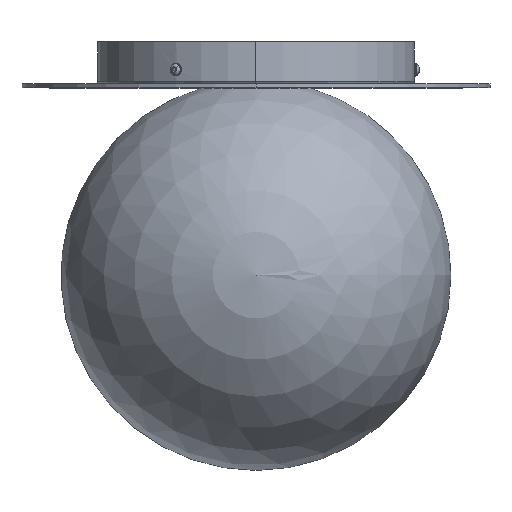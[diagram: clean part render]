
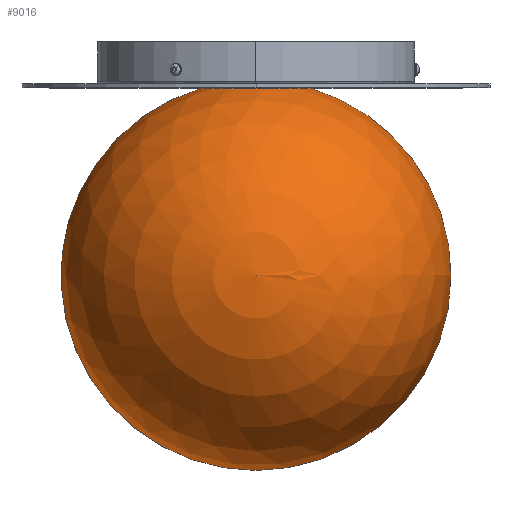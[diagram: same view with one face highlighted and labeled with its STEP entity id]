
A CAD part, top view. The second image highlights one B-rep face of the part: STEP entity #9016.
In plain terms, the highlighted spherical face has radius 125 mm.
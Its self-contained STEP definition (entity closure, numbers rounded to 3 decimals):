
#262 = DIRECTION ( 'NONE',  ( -1., 0., 0. ) ) ;
#755 = CARTESIAN_POINT ( 'NONE',  ( 0., -125., 0. ) ) ;
#840 = ORIENTED_EDGE ( 'NONE', *, *, #6099, .F. ) ;
#903 = CIRCLE ( 'NONE', #8406, 35. ) ;
#1514 = DIRECTION ( 'NONE',  ( 0., 0., 1. ) ) ;
#1886 = AXIS2_PLACEMENT_3D ( 'NONE', #4671, #1514, #4620 ) ;
#2255 = DIRECTION ( 'NONE',  ( 0., 0., -1. ) ) ;
#2364 = CIRCLE ( 'NONE', #1886, 125. ) ;
#2595 = DIRECTION ( 'NONE',  ( 1., 0., 0. ) ) ;
#2661 = VERTEX_POINT ( 'NONE', #7153 ) ;
#3514 = VERTEX_POINT ( 'NONE', #8512 ) ;
#3553 = VERTEX_POINT ( 'NONE', #755 ) ;
#3827 = DIRECTION ( 'NONE',  ( -1., 0., 0. ) ) ;
#4155 = EDGE_CURVE ( 'NONE', #3553, #3514, #2364, .T. ) ;
#4620 = DIRECTION ( 'NONE',  ( 1., 0., 0. ) ) ;
#4671 = CARTESIAN_POINT ( 'NONE',  ( 0., 0., 0. ) ) ;
#4891 = CARTESIAN_POINT ( 'NONE',  ( 0., 0., 0. ) ) ;
#5099 = CIRCLE ( 'NONE', #8018, 125. ) ;
#5146 = ORIENTED_EDGE ( 'NONE', *, *, #4155, .T. ) ;
#5666 = SPHERICAL_SURFACE ( 'NONE', #6340, 125. ) ;
#5891 = DIRECTION ( 'NONE',  ( 0., 1., 0. ) ) ;
#6099 = EDGE_CURVE ( 'NONE', #3553, #2661, #5099, .T. ) ;
#6340 = AXIS2_PLACEMENT_3D ( 'NONE', #4891, #7236, #2595 ) ;
#6555 = CARTESIAN_POINT ( 'NONE',  ( 0., 120., 0. ) ) ;
#7153 = CARTESIAN_POINT ( 'NONE',  ( -35., 120., 0. ) ) ;
#7236 = DIRECTION ( 'NONE',  ( 0., 0., -1. ) ) ;
#7241 = EDGE_LOOP ( 'NONE', ( #840, #5146, #8764 ) ) ;
#7705 = CARTESIAN_POINT ( 'NONE',  ( 0., 0., 0. ) ) ;
#7940 = FACE_OUTER_BOUND ( 'NONE', #7241, .T. ) ;
#8018 = AXIS2_PLACEMENT_3D ( 'NONE', #7705, #2255, #3827 ) ;
#8207 = EDGE_CURVE ( 'NONE', #2661, #3514, #903, .T. ) ;
#8406 = AXIS2_PLACEMENT_3D ( 'NONE', #6555, #5891, #262 ) ;
#8512 = CARTESIAN_POINT ( 'NONE',  ( 35., 120., 0. ) ) ;
#8764 = ORIENTED_EDGE ( 'NONE', *, *, #8207, .F. ) ;
#9016 = ADVANCED_FACE ( 'NONE', ( #7940 ), #5666, .T. ) ;
